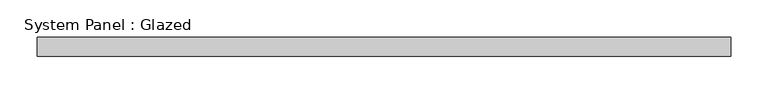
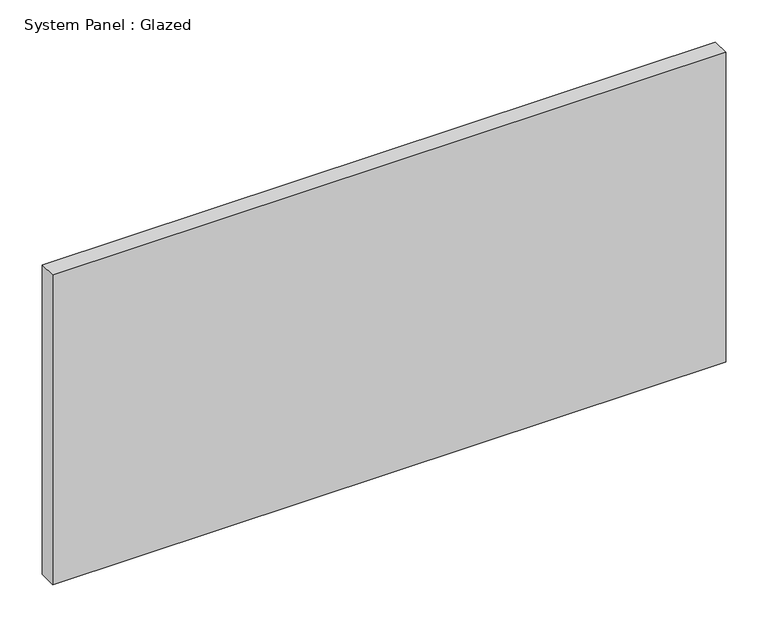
"""IFC4 building model written with IfcOpenShell, lengths in millimetres: plate geometry, System Panel : Glazed."""

import ifcopenshell
import ifcopenshell.guid

model = None  # the IFC model being written
_history = None  # IfcOwnerHistory: only IFC2X3 demands one
_inside = {}  # id of a spatial element -> (the spatial element, [elements in it])
_under = {}  # id of a project, library or spatial element -> (it, [spatial elements below it])
_declared = {}  # id of a project -> (the project, [libraries it declares])
_typed = {}  # id of a type object -> (the type object, [elements of that type])
_made_of = {}  # id of a material, layer set ... -> (it, [elements and type objects made of it])


def new_model(schema):
    """Start an empty IFC model of exactly this schema.

    Asked for "IFC4X3", IfcOpenShell would pick the latest addendum, in which some entities
    have other attributes; the version numbers below select the first issue.
    IFC2X3 requires an IfcOwnerHistory on every rooted entity: one is made here for all.
    """
    global model, _history
    if schema == "IFC4X3":
        model = ifcopenshell.file(schema_version=(4, 3, 0, 0))
    else:
        model = ifcopenshell.file(schema=schema)
    _inside.clear()
    _under.clear()
    _declared.clear()
    _typed.clear()
    _made_of.clear()
    _history = None
    if model.schema == "IFC2X3":
        org = make("IfcOrganization", Name="unknown")
        user = make(
            "IfcPersonAndOrganization",
            ThePerson=make("IfcPerson", FamilyName="unknown"),
            TheOrganization=org,
        )
        app = make(
            "IfcApplication",
            ApplicationDeveloper=org,
            Version="unknown",
            ApplicationFullName="unknown",
            ApplicationIdentifier="unknown",
        )
        _history = make(
            "IfcOwnerHistory",
            OwningUser=user,
            OwningApplication=app,
            ChangeAction="ADDED",
            CreationDate=0,
        )
    return model


def make(cls, **values):
    """One entity of the class cls with the attributes given. An attribute that is None is left unset."""
    return model.create_entity(
        cls, **{name: value for name, value in values.items() if value is not None}
    )


def rooted(cls, **values):
    """An entity with a GlobalId (a new one), such as an element, a storey or a relation."""
    return make(cls, GlobalId=ifcopenshell.guid.new(), OwnerHistory=_history, **values)


def si_unit(unit_type, name, prefix=None):
    """IfcSIUnit, for example si_unit("LENGTHUNIT", "METRE", prefix="MILLI")."""
    return make("IfcSIUnit", UnitType=unit_type, Prefix=prefix, Name=name)


def assignment(units):
    """IfcUnitAssignment: the units of a project."""
    return None if units is None else make("IfcUnitAssignment", Units=units)


def point(xyz):
    """IfcCartesianPoint."""
    return None if xyz is None else make("IfcCartesianPoint", Coordinates=xyz)


def direction(xyz):
    """IfcDirection."""
    return None if xyz is None else make("IfcDirection", DirectionRatios=xyz)


def frame(location, z_axis=None, x_axis=None):
    """IfcAxis2Placement3D, a coordinate frame: its origin and axes. An axis left out is left unset."""
    return make(
        "IfcAxis2Placement3D",
        Location=point(location),
        Axis=direction(z_axis),
        RefDirection=direction(x_axis),
    )


def origin():
    """The frame at (0, 0, 0) with its axes left unset."""
    return frame((0.0, 0.0, 0.0))


def origin_with_axes():
    """The frame at (0, 0, 0) with the z axis (0, 0, 1) and the x axis (1, 0, 0) written out."""
    return frame((0.0, 0.0, 0.0), z_axis=(0.0, 0.0, 1.0), x_axis=(1.0, 0.0, 0.0))


def place(relative_to, where):
    """IfcLocalPlacement: puts the frame where relative to a parent placement (None: the world)."""
    return make(
        "IfcLocalPlacement", PlacementRelTo=relative_to, RelativePlacement=where
    )


def context(
    kind, dimensions, precision=None, world=None, true_north=None, identifier=None
):
    """IfcGeometricRepresentationContext, for example the 3D "Model" context."""
    return make(
        "IfcGeometricRepresentationContext",
        ContextIdentifier=identifier,
        ContextType=kind,
        CoordinateSpaceDimension=dimensions,
        Precision=precision,
        WorldCoordinateSystem=world,
        TrueNorth=true_north,
    )


def project(units=None, contexts=None):
    """IfcProject with its units and contexts."""
    return rooted(
        "IfcProject",
        Name="project",
        RepresentationContexts=contexts,
        UnitsInContext=assignment(units),
    )


def spatial(cls, under=None, at=None, **own):
    """A site, building, storey or space (cls), placed at a placement, below another one or the project."""
    s = rooted(cls, ObjectPlacement=at, **own)
    if under is not None:
        _under.setdefault(under.id(), (under, []))[1].append(s)
    return s


def polyline(points):
    """IfcPolyline through the points."""
    return make("IfcPolyline", Points=[point(p) for p in points])


def outline(outer, holes=None, kind="AREA"):
    """IfcArbitraryClosedProfileDef: a profile drawn as a closed curve; with holes, ...WithVoids."""
    if holes is None:
        return make("IfcArbitraryClosedProfileDef", ProfileType=kind, OuterCurve=outer)
    return make(
        "IfcArbitraryProfileDefWithVoids",
        ProfileType=kind,
        OuterCurve=outer,
        InnerCurves=holes,
    )


def extrude(swept, where, along, depth):
    """IfcExtrudedAreaSolid: the profile swept, set in the frame where, extruded along a direction by depth."""
    return make(
        "IfcExtrudedAreaSolid",
        SweptArea=swept,
        Position=where,
        ExtrudedDirection=direction(along),
        Depth=depth,
    )


def shape(context_of_items, identifier, shape_type, items):
    """IfcShapeRepresentation: the items that make up one representation, for example the "Body"."""
    return make(
        "IfcShapeRepresentation",
        ContextOfItems=context_of_items,
        RepresentationIdentifier=identifier,
        RepresentationType=shape_type,
        Items=items,
    )


def source(mapping_origin, context_of_items, identifier, shape_type, items):
    """IfcRepresentationMap: a shape defined once, which mapped items show again and again."""
    return make(
        "IfcRepresentationMap",
        MappingOrigin=mapping_origin,
        MappedRepresentation=shape(context_of_items, identifier, shape_type, items),
    )


def transform(
    local_origin,
    x_axis=None,
    y_axis=None,
    z_axis=None,
    scale=None,
    scale2=None,
    scale3=None,
    uniform=True,
):
    """IfcCartesianTransformationOperator3D, or its non-uniform kind. x_axis, y_axis, z_axis: its Axis1, 2, 3."""
    if uniform:
        return make(
            "IfcCartesianTransformationOperator3D",
            Axis1=direction(x_axis),
            Axis2=direction(y_axis),
            LocalOrigin=point(local_origin),
            Scale=scale,
            Axis3=direction(z_axis),
        )
    return make(
        "IfcCartesianTransformationOperator3DnonUniform",
        Axis1=direction(x_axis),
        Axis2=direction(y_axis),
        LocalOrigin=point(local_origin),
        Scale=scale,
        Axis3=direction(z_axis),
        Scale2=scale2,
        Scale3=scale3,
    )


def mapped(mapping_source, mapping_target):
    """IfcMappedItem: shows the shape of a source again, moved by a transform."""
    return make(
        "IfcMappedItem", MappingSource=mapping_source, MappingTarget=mapping_target
    )


def made_of(thing, what):
    """Note that an element or type object is made of a material, layer set ...; save() writes the relation."""
    if what is not None:
        _made_of.setdefault(what.id(), (what, []))[1].append(thing)
    return thing


def element(
    cls,
    number,
    at=None,
    inside=None,
    cuts=None,
    type_object=None,
    material=None,
    context=None,
    identifier="Body",
    shape_type=None,
    held_by="IfcProductDefinitionShape",
    body=None,
    shapes=None,
    **own,
):
    """One element of the class cls, such as IfcWall. Its Tag is "e" and its number.

    at: its placement. inside: the storey or other place that contains it. cuts: it is an
    opening in that element (IfcRelVoidsElement). A single representation is given by context,
    identifier, shape_type and body (its items); several are given by shapes. held_by: the class
    of the entity that holds the representations. save() writes the other relations.
    """
    e = rooted(cls, Tag="e%d" % number, ObjectPlacement=at, **own)
    if body is not None:
        shapes = [shape(context, identifier, shape_type, body)]
    if shapes is not None:
        e.Representation = make(held_by, Representations=shapes)
    if inside is not None:
        _inside.setdefault(inside.id(), (inside, []))[1].append(e)
    if cuts is not None:
        rooted(
            "IfcRelVoidsElement", RelatingBuildingElement=cuts, RelatedOpeningElement=e
        )
    if type_object is not None:
        _typed.setdefault(type_object.id(), (type_object, []))[1].append(e)
    return made_of(e, material)


def aggregate(whole, parts):
    """IfcRelAggregates: a whole, such as a stair, and the parts it consists of."""
    return rooted("IfcRelAggregates", RelatingObject=whole, RelatedObjects=parts)


def save(model, path):
    """Write the relations noted so far, then the file.

    IfcRelAggregates (storeys below a building ...), IfcRelContainedInSpatialStructure (elements
    in a storey), IfcRelDefinesByType, IfcRelAssociatesMaterial and IfcRelDeclares: one each for
    every whole, place, type object, material and project.
    """
    for whole, parts in _under.values():
        aggregate(whole, parts)
    for where, things in _inside.values():
        rooted(
            "IfcRelContainedInSpatialStructure",
            RelatedElements=things,
            RelatingStructure=where,
        )
    for kind, things in _typed.values():
        rooted("IfcRelDefinesByType", RelatedObjects=things, RelatingType=kind)
    for what, things in _made_of.values():
        rooted("IfcRelAssociatesMaterial", RelatedObjects=things, RelatingMaterial=what)
    for by, libraries in _declared.values():
        rooted("IfcRelDeclares", RelatingContext=by, RelatedDefinitions=libraries)
    model.write(path)


def system_panel_glazed_fd914742(model_context):
    return source(origin(), model_context, "Body", "SweptSolid", [
        extrude(outline(polyline([(462.5, 24.5), (-462.5, 24.5), (-462.5, 49.5), (462.5, 49.5), (462.5, 24.5)])), origin_with_axes(), (0.0, 0.0, 1.0), 450.0),
    ])


if __name__ == "__main__":
    model = new_model("IFC4")
    model_context = context("Model", 3, world=origin())
    ifc_project = project(units=[si_unit("LENGTHUNIT", "METRE", prefix="MILLI")], contexts=[model_context])
    site = spatial("IfcSite", under=ifc_project)
    building = spatial("IfcBuilding", under=site)
    placement = place(None, origin())
    system_panel_glazed_shape = system_panel_glazed_fd914742(model_context)
    element("IfcPlate", 1, ObjectType="System Panel : Glazed", at=placement, inside=building, context=model_context, shape_type="MappedRepresentation", body=[
        mapped(system_panel_glazed_shape, transform((0.0, 0.0, 0.0), x_axis=(1.0, 0.0, 0.0), y_axis=(0.0, 1.0, 0.0), z_axis=(0.0, 0.0, 1.0))),
    ])
    save(model, "model.ifc")
